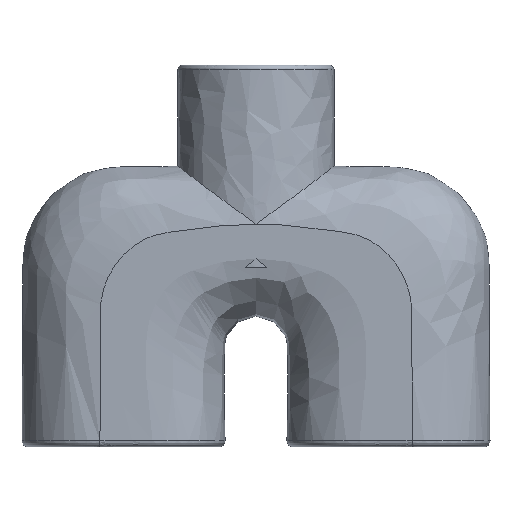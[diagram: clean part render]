
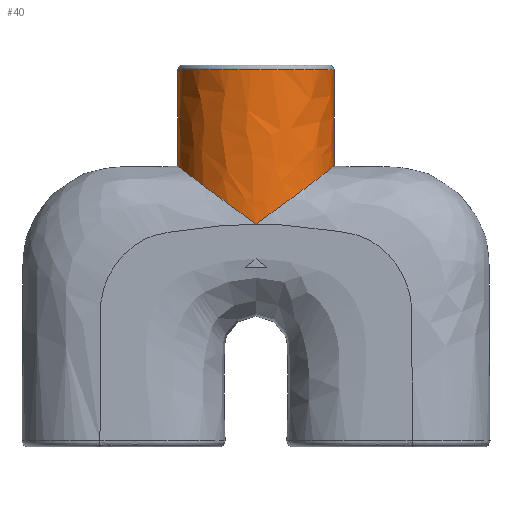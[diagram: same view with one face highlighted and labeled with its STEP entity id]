
A CAD part, front view. The second image highlights one B-rep face of the part: STEP entity #40.
In plain terms, the highlighted free-form (B-spline) face has degree [2, 1] with [5, 2] control points.
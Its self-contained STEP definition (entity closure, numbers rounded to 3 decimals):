
#40=ADVANCED_FACE('',(#60),#317,.T.);
#60=FACE_OUTER_BOUND('',#81,.T.);
#81=EDGE_LOOP('',(#124,#125,#126,#127,#128));
#124=ORIENTED_EDGE('',*,*,#177,.F.);
#125=ORIENTED_EDGE('',*,*,#180,.F.);
#126=ORIENTED_EDGE('',*,*,#187,.T.);
#127=ORIENTED_EDGE('',*,*,#189,.T.);
#128=ORIENTED_EDGE('',*,*,#195,.F.);
#177=EDGE_CURVE('',#275,#288,#261,.T.);
#180=EDGE_CURVE('',#278,#275,#263,.T.);
#187=EDGE_CURVE('',#278,#285,#229,.T.);
#189=EDGE_CURVE('',#285,#289,#231,.T.);
#195=EDGE_CURVE('',#288,#289,#237,.T.);
#229=(
BOUNDED_CURVE()
B_SPLINE_CURVE(1,(#870,#871),.UNSPECIFIED.,.F.,.F.)
B_SPLINE_CURVE_WITH_KNOTS((2,2),(65.047,127.082),
 .UNSPECIFIED.)
CURVE()
GEOMETRIC_REPRESENTATION_ITEM()
RATIONAL_B_SPLINE_CURVE((1.,1.))
REPRESENTATION_ITEM('')
);
#231=(
BOUNDED_CURVE()
B_SPLINE_CURVE(2,(#874,#875,#876,#877,#878),.UNSPECIFIED.,.F.,.F.)
B_SPLINE_CURVE_WITH_KNOTS((3,2,3),(0.,73.827,147.654),
 .UNSPECIFIED.)
CURVE()
GEOMETRIC_REPRESENTATION_ITEM()
RATIONAL_B_SPLINE_CURVE((1.,0.707,1.,0.707,1.))
REPRESENTATION_ITEM('')
);
#237=(
BOUNDED_CURVE()
B_SPLINE_CURVE(1,(#976,#977),.UNSPECIFIED.,.F.,.F.)
B_SPLINE_CURVE_WITH_KNOTS((2,2),(65.047,127.082),
 .UNSPECIFIED.)
CURVE()
GEOMETRIC_REPRESENTATION_ITEM()
RATIONAL_B_SPLINE_CURVE((1.,1.))
REPRESENTATION_ITEM('')
);
#261=B_SPLINE_CURVE_WITH_KNOTS('',3,(#627,#628,#629,#630,#631,#632,#633,
#634,#635,#636,#637,#638,#639,#640,#641,#642,#643,#644,#645,#646,#647,#648,
#649,#650,#651,#652,#653,#654,#655,#656,#657,#658,#659,#660),
 .UNSPECIFIED.,.F.,.F.,(4,2,2,2,3,3,2,3,3,3,2,2,3,4),(0.,4.819,
9.638,14.457,19.276,27.504,36.714,
45.923,47.069,55.506,68.196,74.542,
80.889,88.412),.UNSPECIFIED.);
#263=B_SPLINE_CURVE_WITH_KNOTS('',3,(#711,#712,#713,#714,#715,#716,#717,
#718,#719,#720,#721,#722,#723,#724,#725,#726,#727,#728,#729,#730,#731,#732,
#733,#734,#735,#736,#737,#738,#739,#740,#741,#742,#743,#744,#745,#746,#747),
 .UNSPECIFIED.,.F.,.F.,(4,3,2,2,3,3,3,2,3,3,2,2,2,3,4),(0.,7.523,
13.87,20.215,32.906,41.343,42.49,
51.699,60.908,69.137,73.956,78.774,
83.593,88.412,88.412),.UNSPECIFIED.);
#275=VERTEX_POINT('',#608);
#278=VERTEX_POINT('',#611);
#285=VERTEX_POINT('',#618);
#288=VERTEX_POINT('',#621);
#289=VERTEX_POINT('',#622);
#317=(
BOUNDED_SURFACE()
B_SPLINE_SURFACE(2,1,((#486,#487),(#488,#489),(#490,#491),(#492,#493),(#494,
#495)),.UNSPECIFIED.,.F.,.F.,.F.)
B_SPLINE_SURFACE_WITH_KNOTS((3,2,3),(2,2),(157.743,236.614,
315.486),(0.,130.094),.UNSPECIFIED.)
GEOMETRIC_REPRESENTATION_ITEM()
RATIONAL_B_SPLINE_SURFACE(((1.,1.),(0.707,0.707),
(1.,1.),(0.707,0.707),(1.,1.)))
REPRESENTATION_ITEM('')
SURFACE()
);
#486=CARTESIAN_POINT('',(-7593.039,1266.03,115.102));
#487=CARTESIAN_POINT('',(-7593.039,1266.03,244.649));
#488=CARTESIAN_POINT('',(-7593.039,1216.03,115.102));
#489=CARTESIAN_POINT('',(-7593.039,1216.03,244.649));
#490=CARTESIAN_POINT('',(-7543.039,1216.03,115.102));
#491=CARTESIAN_POINT('',(-7543.039,1216.03,244.649));
#492=CARTESIAN_POINT('',(-7493.039,1216.03,115.102));
#493=CARTESIAN_POINT('',(-7493.039,1216.03,244.649));
#494=CARTESIAN_POINT('',(-7493.039,1266.03,115.102));
#495=CARTESIAN_POINT('',(-7493.039,1266.03,244.649));
#608=CARTESIAN_POINT('',(-7543.039,1216.03,142.779));
#611=CARTESIAN_POINT('',(-7493.039,1266.03,179.876));
#618=CARTESIAN_POINT('',(-7493.039,1266.03,241.649));
#621=CARTESIAN_POINT('',(-7593.039,1266.03,179.876));
#622=CARTESIAN_POINT('',(-7593.039,1266.03,241.649));
#627=CARTESIAN_POINT('',(-7543.039,1216.03,142.779));
#628=CARTESIAN_POINT('',(-7544.328,1216.03,143.737));
#629=CARTESIAN_POINT('',(-7545.621,1216.08,144.689));
#630=CARTESIAN_POINT('',(-7548.209,1216.281,146.582));
#631=CARTESIAN_POINT('',(-7549.503,1216.433,147.522));
#632=CARTESIAN_POINT('',(-7552.084,1216.838,149.391));
#633=CARTESIAN_POINT('',(-7553.37,1217.092,150.32));
#634=CARTESIAN_POINT('',(-7555.928,1217.702,152.165));
#635=CARTESIAN_POINT('',(-7557.199,1218.059,153.08));
#636=CARTESIAN_POINT('',(-7558.459,1218.467,153.989));
#637=CARTESIAN_POINT('',(-7560.609,1219.165,155.54));
#638=CARTESIAN_POINT('',(-7562.726,1220.012,157.069));
#639=CARTESIAN_POINT('',(-7564.792,1221.01,158.571));
#640=CARTESIAN_POINT('',(-7567.102,1222.126,160.25));
#641=CARTESIAN_POINT('',(-7569.349,1223.432,161.894));
#642=CARTESIAN_POINT('',(-7573.661,1226.417,165.074));
#643=CARTESIAN_POINT('',(-7575.728,1228.1,166.612));
#644=CARTESIAN_POINT('',(-7577.674,1229.969,168.071));
#645=CARTESIAN_POINT('',(-7577.916,1230.201,168.253));
#646=CARTESIAN_POINT('',(-7578.156,1230.437,168.433));
#647=CARTESIAN_POINT('',(-7578.394,1230.675,168.612));
#648=CARTESIAN_POINT('',(-7580.149,1232.429,169.931));
#649=CARTESIAN_POINT('',(-7581.799,1234.34,171.182));
#650=CARTESIAN_POINT('',(-7583.316,1236.403,172.34));
#651=CARTESIAN_POINT('',(-7585.596,1239.503,174.08));
#652=CARTESIAN_POINT('',(-7587.571,1242.938,175.607));
#653=CARTESIAN_POINT('',(-7589.922,1248.536,177.435));
#654=CARTESIAN_POINT('',(-7590.6,1250.468,177.964));
#655=CARTESIAN_POINT('',(-7591.723,1254.449,178.842));
#656=CARTESIAN_POINT('',(-7592.165,1256.487,179.188));
#657=CARTESIAN_POINT('',(-7592.478,1258.564,179.435));
#658=CARTESIAN_POINT('',(-7592.85,1261.027,179.727));
#659=CARTESIAN_POINT('',(-7593.039,1263.522,179.876));
#660=CARTESIAN_POINT('',(-7593.039,1266.03,179.876));
#711=CARTESIAN_POINT('',(-7493.039,1266.03,179.876));
#712=CARTESIAN_POINT('',(-7493.039,1263.522,179.876));
#713=CARTESIAN_POINT('',(-7493.228,1261.027,179.727));
#714=CARTESIAN_POINT('',(-7493.6,1258.564,179.435));
#715=CARTESIAN_POINT('',(-7493.913,1256.487,179.188));
#716=CARTESIAN_POINT('',(-7494.355,1254.449,178.842));
#717=CARTESIAN_POINT('',(-7495.478,1250.468,177.964));
#718=CARTESIAN_POINT('',(-7496.156,1248.536,177.435));
#719=CARTESIAN_POINT('',(-7498.507,1242.938,175.607));
#720=CARTESIAN_POINT('',(-7500.482,1239.503,174.08));
#721=CARTESIAN_POINT('',(-7502.762,1236.403,172.34));
#722=CARTESIAN_POINT('',(-7504.279,1234.34,171.182));
#723=CARTESIAN_POINT('',(-7505.93,1232.429,169.931));
#724=CARTESIAN_POINT('',(-7507.684,1230.675,168.612));
#725=CARTESIAN_POINT('',(-7507.922,1230.436,168.433));
#726=CARTESIAN_POINT('',(-7508.163,1230.2,168.252));
#727=CARTESIAN_POINT('',(-7508.406,1229.967,168.07));
#728=CARTESIAN_POINT('',(-7510.351,1228.099,166.611));
#729=CARTESIAN_POINT('',(-7512.418,1226.417,165.073));
#730=CARTESIAN_POINT('',(-7516.729,1223.431,161.894));
#731=CARTESIAN_POINT('',(-7518.976,1222.126,160.25));
#732=CARTESIAN_POINT('',(-7521.286,1221.01,158.571));
#733=CARTESIAN_POINT('',(-7523.352,1220.012,157.069));
#734=CARTESIAN_POINT('',(-7525.469,1219.164,155.539));
#735=CARTESIAN_POINT('',(-7527.62,1218.467,153.988));
#736=CARTESIAN_POINT('',(-7528.88,1218.059,153.08));
#737=CARTESIAN_POINT('',(-7530.151,1217.702,152.164));
#738=CARTESIAN_POINT('',(-7532.708,1217.091,150.32));
#739=CARTESIAN_POINT('',(-7533.995,1216.838,149.391));
#740=CARTESIAN_POINT('',(-7536.575,1216.433,147.522));
#741=CARTESIAN_POINT('',(-7537.869,1216.281,146.582));
#742=CARTESIAN_POINT('',(-7540.457,1216.08,144.689));
#743=CARTESIAN_POINT('',(-7541.75,1216.03,143.737));
#744=CARTESIAN_POINT('',(-7543.039,1216.03,142.779));
#745=CARTESIAN_POINT('',(-7543.039,1216.03,142.779));
#746=CARTESIAN_POINT('',(-7543.039,1216.03,142.779));
#747=CARTESIAN_POINT('',(-7543.039,1216.03,142.779));
#870=CARTESIAN_POINT('',(-7493.039,1266.03,179.876));
#871=CARTESIAN_POINT('',(-7493.039,1266.03,241.649));
#874=CARTESIAN_POINT('',(-7493.039,1266.03,241.649));
#875=CARTESIAN_POINT('',(-7493.039,1216.03,241.649));
#876=CARTESIAN_POINT('',(-7543.039,1216.03,241.649));
#877=CARTESIAN_POINT('',(-7593.039,1216.03,241.649));
#878=CARTESIAN_POINT('',(-7593.039,1266.03,241.649));
#976=CARTESIAN_POINT('',(-7593.039,1266.03,179.876));
#977=CARTESIAN_POINT('',(-7593.039,1266.03,241.649));
